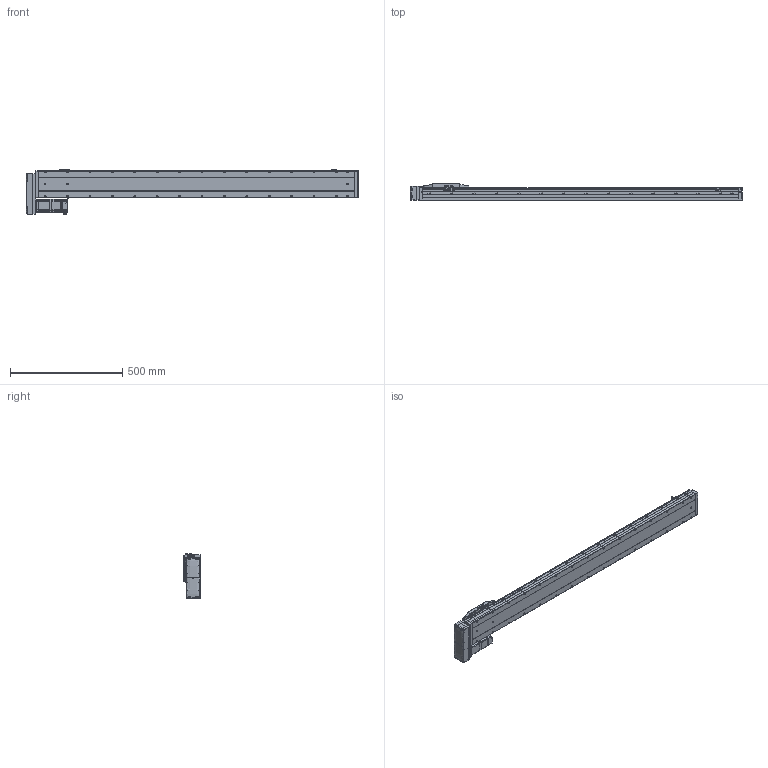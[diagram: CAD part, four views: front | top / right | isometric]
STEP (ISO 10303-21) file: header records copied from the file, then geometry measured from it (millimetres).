
FILE_DESCRIPTION (( 'STEP AP214' ), '1' );
FILE_NAME ('CTH12-L10-S1200-BR-C40（简）.STEP', '2023-02-04T06:58:09', ( '' ), ( '' ), 'SwSTEP 2.0', 'SolidWorks 2018', '' );
FILE_SCHEMA (( 'AUTOMOTIVE_DESIGN' ));
Length unit declared in the file: millimetre
Products named in the file (24): CTH400W垫板（3个厚）; AC60_Valor predeterminado; M5蹟隊; hex nuts, style 1-grades ab gb_GB_FASTENER_NUT_SNAB1 M3-N; CTH12-BL_body_4; CTH12; 嫖萇羲壽郪磁1; CTH12耜蚾裔; CTH12賑怢ㄗ潠ㄘ; 湮賑怢  裔赽-1(CTH12)賑怢; CTH12侧装连接板（标准）简; CTH400W假蚾啣; CTH12_body_3; CTH12賑怢郪磁; 内六角圆柱头螺钉M3; CTH12覜茼え; 内六角圆柱头螺钉M3-2; 蚐郲; 嫖萇羲壽郪磁2; CTH12底座-L1411简（1200行程）; 内六角圆柱头螺钉M3-1; CTH嫖萇羲壽假蚾啣; CTH12-L10-S1200-BR-C40（简）; PM-Y45
Assembly tree (44 placements, depth 4):
  CTH12-L10-S1200-BR-C40（简）
    CTH12底座-L1411简（1200行程）
    蚐郲  x2
    CTH12_body_3
    CTH12-BL_body_4
    CTH12侧装连接板（标准）简
    CTH12耜蚾裔
    CTH12賑怢郪磁
      CTH12
        湮賑怢  裔赽-1(CTH12)賑怢
        CTH12賑怢ㄗ潠ㄘ
    CTH12覜茼え
    嫖萇羲壽郪磁1  x2
      CTH嫖萇羲壽假蚾啣
      PM-Y45
      内六角圆柱头螺钉M3-2
      内六角圆柱头螺钉M3-1
      hex nuts, style 1-grades ab gb_GB_FASTENER_NUT_SNAB1 M3-N
    嫖萇羲壽郪磁2
      CTH嫖萇羲壽假蚾啣
      PM-Y45
      内六角圆柱头螺钉M3-1  x2
      内六角圆柱头螺钉M3-2  x2
      hex nuts, style 1-grades ab gb_GB_FASTENER_NUT_SNAB1 M3-N  x2
    CTH400W垫板（3个厚）
    AC60_Valor predeterminado
    内六角圆柱头螺钉M3  x6
    M5蹟隊  x4
    CTH400W假蚾啣
Bounding box: 1481.5 x 76 x 201.06 mm (x, y, z)
Volume: 10017191.1 mm3; surface area: 847670.9 mm2
Topology: 47 solids, 48 shells, 3053 faces, 7790 edges, 4955 vertices
Faces by surface type: plane 1631, cylinder 843, cone 415, bspline 112, torus 52
Entity records: 90253 total; most frequent: CARTESIAN_POINT 25206, ORIENTED_EDGE 12760, DIRECTION 12435, EDGE_CURVE 6380, AXIS2_PLACEMENT_3D 4232, VERTEX_POINT 4059, LINE 3971, VECTOR 3971
